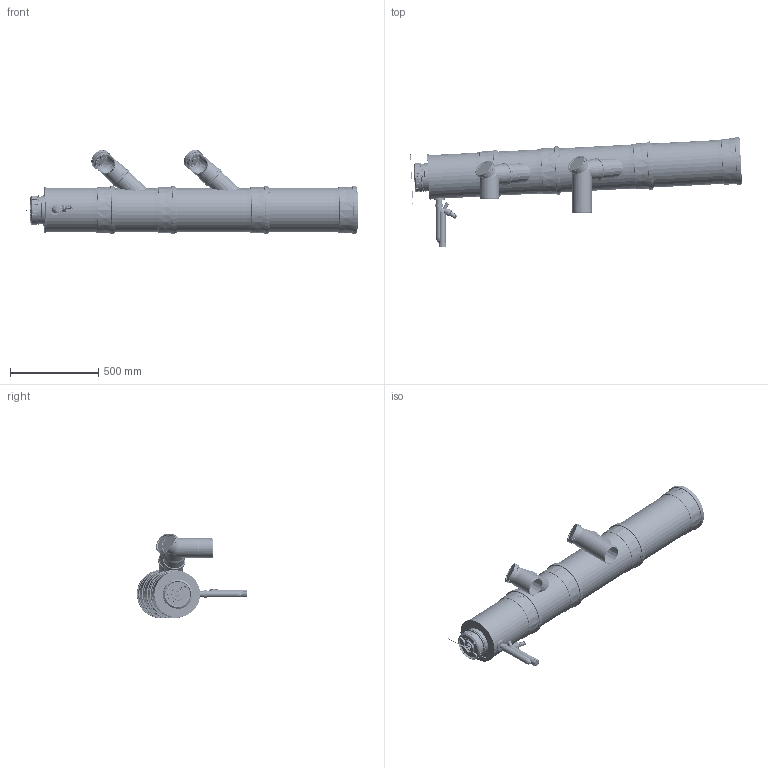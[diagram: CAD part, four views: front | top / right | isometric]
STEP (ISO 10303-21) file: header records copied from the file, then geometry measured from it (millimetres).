
FILE_DESCRIPTION((''),'2;1');
FILE_NAME('20-5500001946_ASM','2022-03-23T13:49:00',('ctgas'),('Centrotherm'),'CREO PARAMETRIC BY PTC INC, 2020281','CREO PARAMETRIC BY PTC INC, 2020281','');
FILE_SCHEMA(('AP242_MANAGED_MODEL_BASED_3D_ENGINEERING_MIM_LF { 1 0 10303 442 1 1 4 }'));
Products named in the file (40): 20-1100007651_AF0; 20-1100001372_0480_AF1; 20-1100008618_0527_AF0_ASM; 20-1100004789_AF1; 20-1100008870_ASM; 34015500; 20-1100008871_ASM; 20-1100007651_AF557; 20-1100001372_0353_AF1; 20-1100008618_0400_AF0_ASM; 20-1100004789_AF0; 20-1100008633_ASM; 20-1100008634_ASM; 20-1100007651_AF558; 20-1100001372_0263_AF1; 20-1100008618_0308_AF0_ASM; 02274555; 20-1100003803_GERADE; 20-0002700024; 20-1100008655_ASM; 20-1100003804; 20-1100002691; 20-1100003808_ASM; 45110002; 20-1100008656_ASM; 45600054; 45600015; 80600024_ASM; 20-1100007651_AF559; 20-1100001372_0453_AF0; 20-1100008618_0500_ASM; 20-1100008619_0500_ASM; 20-1100000544; 20-0002073000; 20-0034033000; 20-0034013010; 20-1100002663_ASM; 20-1100000543; 20-1100002662_ASM; 20-5500001946_ASM
Assembly tree (45 placements, depth 5):
  20-5500001946_ASM
    20-1100008871_ASM
      20-1100008870_ASM
        20-1100008618_0527_AF0_ASM
          20-1100007651_AF0
          20-1100001372_0480_AF1
        20-1100004789_AF1
      34015500
    20-1100008634_ASM
      20-1100008633_ASM
        20-1100008618_0400_AF0_ASM
          20-1100007651_AF557
          20-1100001372_0353_AF1
        20-1100004789_AF0
      34015500
    20-1100008656_ASM
      20-1100008655_ASM
        20-1100008618_0308_AF0_ASM
          20-1100007651_AF558
          20-1100001372_0263_AF1
        02274555
        20-1100003803_GERADE
        20-0002700024
      34015500
      20-1100003808_ASM
        20-1100003804
        20-1100002691
      45110002
    80600024_ASM
      45600054
      45600015
    20-1100008619_0500_ASM
      20-1100008618_0500_ASM
        20-1100007651_AF559
        20-1100001372_0453_AF0
      34015500
    20-1100002663_ASM
      20-1100000544
      20-0002073000
      20-0034033000
      20-0034013010
    20-1100002662_ASM
      20-1100000543
      20-0002073000
      20-0034033000
      20-0034013010
Bounding box: 1882.58 x 625.57 x 479.96 mm (x, y, z)
Volume: 8907899.5 mm3; surface area: 4700435.5 mm2
Topology: 30 solids, 38 shells, 12874 faces, 34551 edges, 22340 vertices
Faces by surface type: plane 9720, cylinder 1007, cone 970, bspline 568, torus 416, sphere 172, extrusion 21
Entity records: 424726 total; most frequent: CARTESIAN_POINT 122736, ORIENTED_EDGE 66732, DIRECTION 55656, EDGE_CURVE 33398, VERTEX_POINT 21673, VECTOR 21570, LINE 21549, AXIS2_PLACEMENT_3D 17043
